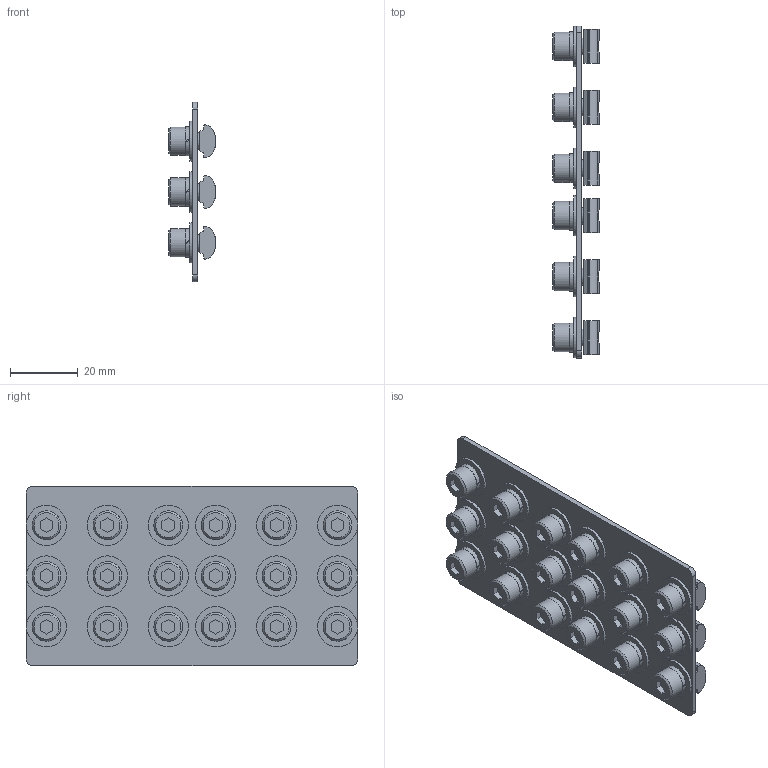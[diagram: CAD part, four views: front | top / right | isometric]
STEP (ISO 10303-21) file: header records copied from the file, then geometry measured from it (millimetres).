
FILE_DESCRIPTION(('STEP AP214'),'1');
FILE_NAME('SP2C-B.stp','2016-10-21T10:18:01',(' '),(' '),'Spatial InterOp 3D',' ',' ');
FILE_SCHEMA(('automotive_design'));
Length unit declared in the file: millimetre
Products named in the file (14): SP2C-B; SP2C-H; ねじ: 穴付き - M5.0 x 8.0; M5PW
Assembly tree (73 placements, depth 2):
  SP2C-B
    SP2C-H
    ねじ: 穴付き - M5.0 x 8.0  x6
    (unnamed)  x6
    M5PW  x6
    (unnamed)  x6
    ねじ: 穴付き - M5.0 x 8.0  x6
    (unnamed)  x6
    M5PW  x6
    (unnamed)  x6
    ねじ: 穴付き - M5.0 x 8.0  x6
    (unnamed)  x6
    M5PW  x6
    (unnamed)  x6
Bounding box: 13.73 x 98 x 53 mm (x, y, z)
Volume: 21358.1 mm3; surface area: 29797 mm2
Topology: 73 solids, 73 shells, 910 faces, 2220 edges, 1474 vertices
Faces by surface type: plane 528, cylinder 346, cone 36
Full cylindrical faces by diameter (mm): 5 x18, 5.2 x18, 5.5 x18, 8.385 x18, 11.9 x18
Entity records: 6563 total; most frequent: DIRECTION 1052, CARTESIAN_POINT 991, ORIENTED_EDGE 792, AXIS2_PLACEMENT_3D 419, EDGE_CURVE 396, VERTEX_POINT 286, EDGE_LOOP 262, LINE 214
